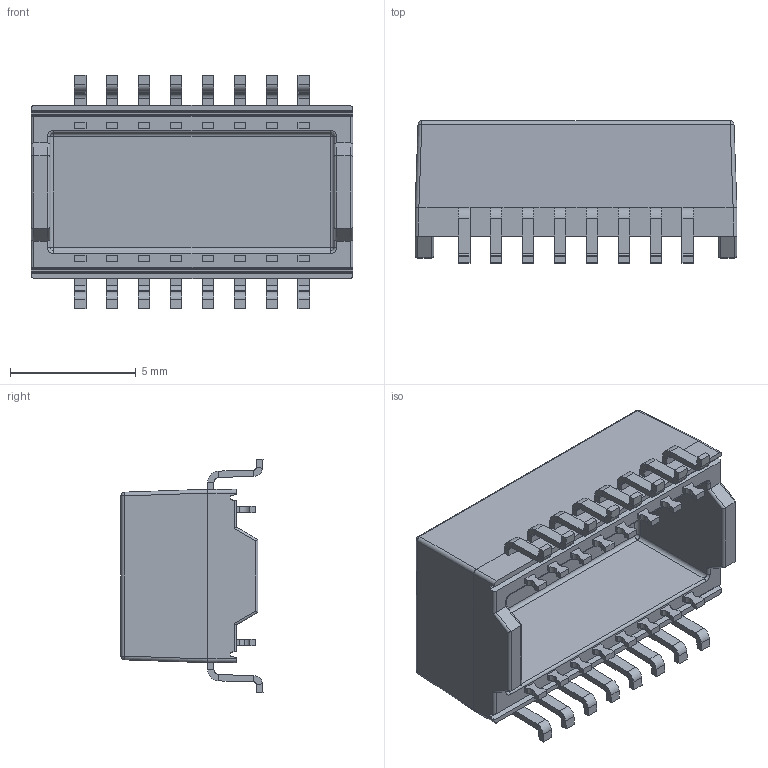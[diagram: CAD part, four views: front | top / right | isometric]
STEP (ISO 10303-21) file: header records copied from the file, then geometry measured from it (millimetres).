
FILE_DESCRIPTION (( 'STEP AP203' ), '1' );
FILE_NAME ('S160.STEP', '2025-10-10T08:55:27', ( '' ), ( '' ), 'SwSTEP 2.0', 'SolidWorks 2025', '' );
FILE_SCHEMA (( 'CONFIG_CONTROL_DESIGN' ));
Length unit declared in the file: millimetre
Products named in the file (3): S160XX G(PIN); S160; S160XX G(CASE)
Assembly tree (17 placements, depth 2):
  S160
    S160XX G(CASE)
    S160XX G(PIN)  x16
Bounding box: 12.8 x 5.65 x 9.3 mm (x, y, z)
Volume: 194.9 mm3; surface area: 650.2 mm2
Topology: 17 solids, 17 shells, 843 faces, 1888 edges, 1056 vertices
Faces by surface type: plane 607, cylinder 224, sphere 8, torus 4
Entity records: 9650 total; most frequent: CARTESIAN_POINT 1591, DIRECTION 1545, ORIENTED_EDGE 1510, EDGE_CURVE 755, LINE 593, VECTOR 593, AXIS2_PLACEMENT_3D 476, VERTEX_POINT 426
